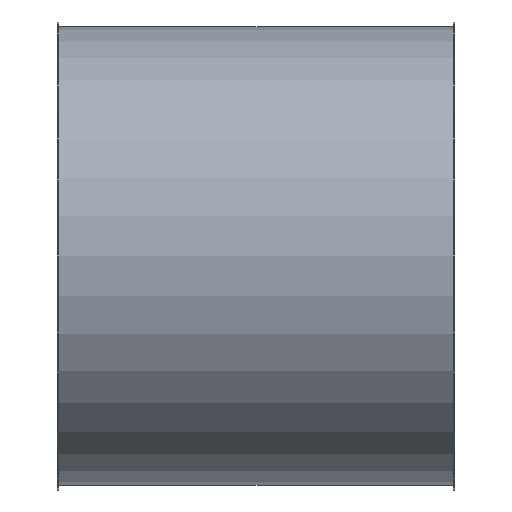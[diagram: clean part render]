
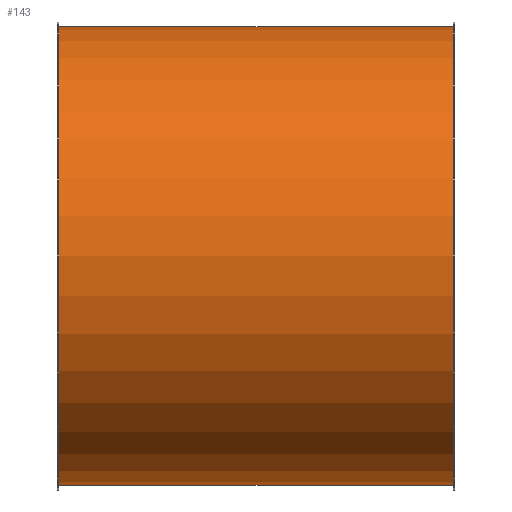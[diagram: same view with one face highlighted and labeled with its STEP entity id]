
A CAD part, front view. The second image highlights one B-rep face of the part: STEP entity #143.
In plain terms, the highlighted cylindrical face has radius 281 mm (diameter 562 mm), a full revolution.
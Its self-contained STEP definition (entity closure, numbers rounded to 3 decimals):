
#112=CARTESIAN_POINT('',(454.119,2.817,0.0));
#113=VERTEX_POINT('',#112);
#114=CARTESIAN_POINT('',(454.119,283.817,0.0));
#115=DIRECTION('',(-1.0,0.0,0.0));
#116=DIRECTION('',(0.0,-1.0,0.0));
#117=AXIS2_PLACEMENT_3D('',#114,#115,#116);
#118=CIRCLE('',#117,281.);
#119=EDGE_CURVE('',#113,#113,#118,.T.);
#124=CARTESIAN_POINT('',(212.119,283.817,0.0));
#125=DIRECTION('',(-1.0,0.,0.0));
#126=DIRECTION('',(0.0,-1.0,0.0));
#127=AXIS2_PLACEMENT_3D('',#124,#125,#126);
#128=CYLINDRICAL_SURFACE('',#127,281.);
#129=CARTESIAN_POINT('',(-29.881,2.817,0.0));
#130=VERTEX_POINT('',#129);
#131=CARTESIAN_POINT('',(-29.881,283.817,0.0));
#132=DIRECTION('',(-1.0,0.0,0.0));
#133=DIRECTION('',(0.0,-1.0,0.0));
#134=AXIS2_PLACEMENT_3D('',#131,#132,#133);
#135=CIRCLE('',#134,281.0);
#136=EDGE_CURVE('',#130,#130,#135,.T.);
#137=ORIENTED_EDGE('',*,*,#136,.F.);
#138=EDGE_LOOP('',(#137));
#139=FACE_OUTER_BOUND('',#138,.T.);
#140=ORIENTED_EDGE('',*,*,#119,.T.);
#141=EDGE_LOOP('',(#140));
#142=FACE_BOUND('',#141,.T.);
#143=ADVANCED_FACE('',(#139,#142),#128,.T.);
